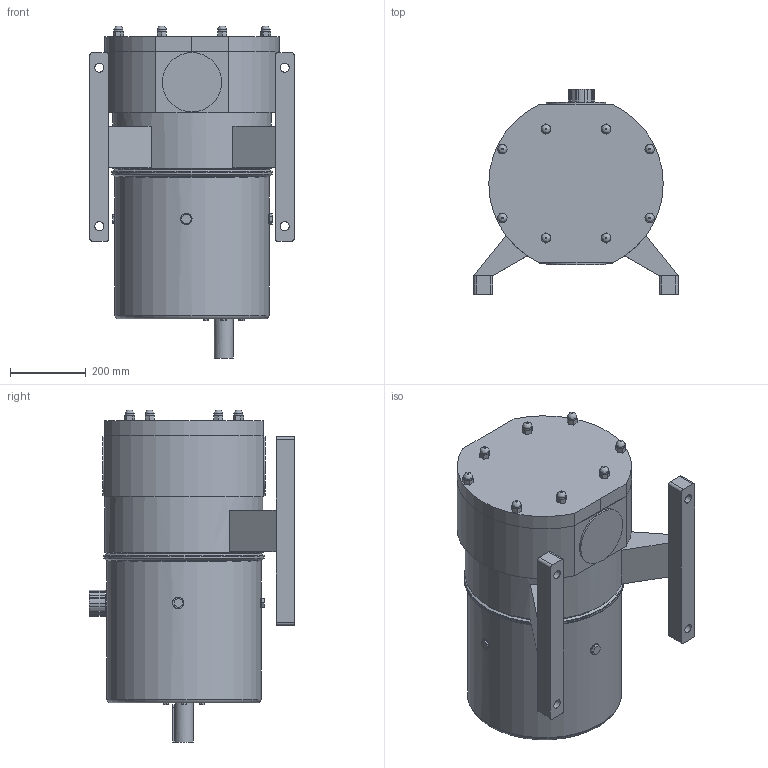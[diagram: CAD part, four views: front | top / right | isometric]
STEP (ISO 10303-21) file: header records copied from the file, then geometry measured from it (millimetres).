
FILE_DESCRIPTION((''),'2;1');
FILE_NAME('T:\_Engineering\Read Only\Studenci\Maciej\DW pumps\STEP\DW6_519_7_shaft_right.stp','2013-06-10T12:19:32',('pszymczyk'),(''),'Autodesk Inventor 2012','Autodesk Inventor 2012','');
FILE_SCHEMA(('CONFIG_CONTROL_DESIGN'));
Length unit declared in the file: millimetre
Products named in the file (1): DW_iparts
Bounding box: 540.6 x 543.3 x 879.28 mm (x, y, z)
Volume: 61243703.6 mm3; surface area: 2510774.2 mm2
Topology: 1 solids, 3 shells, 318 faces, 754 edges, 467 vertices
Faces by surface type: plane 244, cylinder 51, bspline 12, cone 7, torus 4
Full cylindrical faces by diameter (mm): 24 x12, 30 x4, 42 x1, 50 x1, 90 x1, 110 x1, 157 x2, 405.6 x2, 408.6 x2, 420 x2, 426 x1
Entity records: 9388 total; most frequent: CARTESIAN_POINT 2088, DIRECTION 1473, ORIENTED_EDGE 1408, EDGE_CURVE 704, VECTOR 531, LINE 531, AXIS2_PLACEMENT_3D 471, VERTEX_POINT 460
